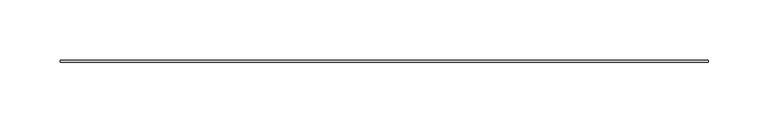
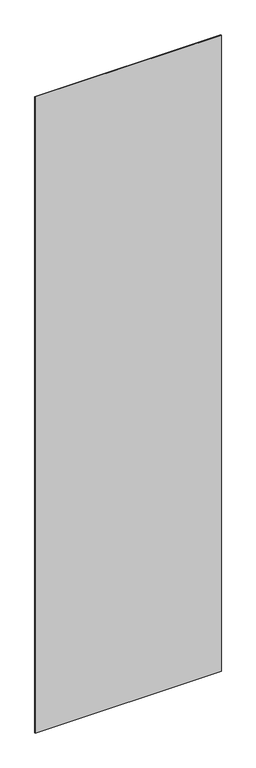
"""IFC4 building model written with IfcOpenShell, lengths in millimetres: electric distribution board geometry, DKC_Монтажная плата : DKC_Монтажная плата."""

from ifc_helpers import new_model, si_unit, frame, origin, place, context, project, spatial, polyline, outline, extrude, source, transform, mapped, element, save


def electric_distribution_board_032dcf66(model_context):
    return source(origin(), model_context, "Body", "SweptSolid", [
        extrude(outline(polyline([(270.0, -49.0), (270.0, -51.0), (-270.0, -51.0), (-270.0, -49.0), (270.0, -49.0)])), frame((0.0, 0.0, 25.0), z_axis=(0.0, 0.0, 1.0), x_axis=(1.0, 0.0, 0.0)), (0.0, 0.0, 1.0), 1950.0),
    ])


if __name__ == "__main__":
    model = new_model("IFC4")
    model_context = context("Model", 3, world=origin())
    ifc_project = project(units=[si_unit("LENGTHUNIT", "METRE", prefix="MILLI")], contexts=[model_context])
    site = spatial("IfcSite", under=ifc_project)
    building = spatial("IfcBuilding", under=site)
    placement = place(None, origin())
    electric_distribution_board_shape = electric_distribution_board_032dcf66(model_context)
    element("IfcElectricDistributionBoard", 1, ObjectType="DKC_Монтажная плата : DKC_Монтажная плата", at=placement, inside=building, context=model_context, shape_type="MappedRepresentation", body=[
        mapped(electric_distribution_board_shape, transform((0.0, 0.0, 0.0), x_axis=(1.0, 0.0, 0.0), y_axis=(0.0, 1.0, 0.0), z_axis=(0.0, 0.0, 1.0))),
    ])
    save(model, "model.ifc")
